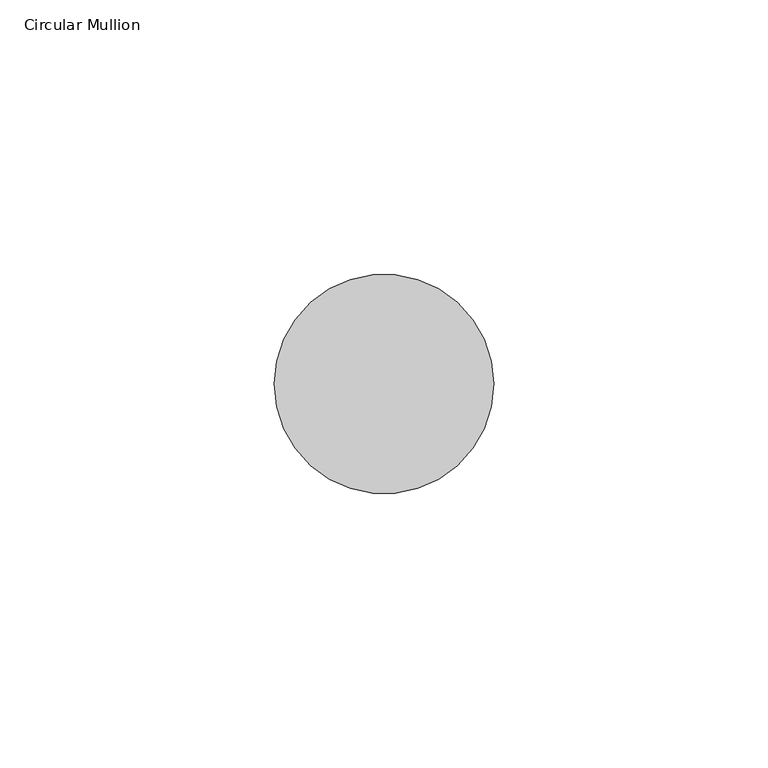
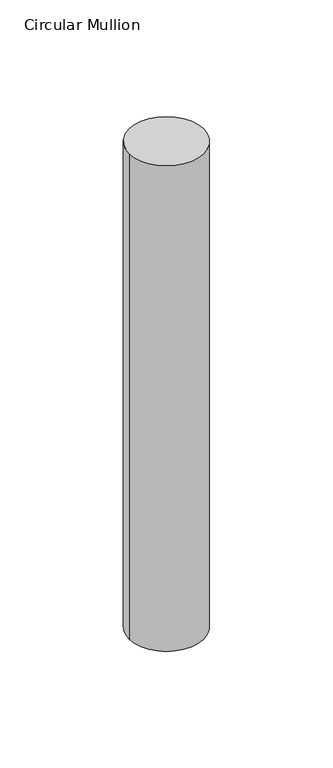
"""IFC4 building model written with IfcOpenShell, lengths in millimetres: member geometry, Circular Mullion : GRADIL 40mm."""

from ifc_helpers import new_model, si_unit, point, frame, origin, origin_2d, place, context, project, spatial, circle_curve, trimmed, segment, composite_curve, outline, extrude, source, transform, mapped, element, save


def circular_mullion_5e6bc60d(model_context):
    return source(origin(), model_context, "Body", "SweptSolid", [
        extrude(outline(composite_curve([segment(trimmed(circle_curve(origin_2d(), 20.0), [point((20.0, 0.0))], [point((-20.0, 0.0))], False, "CARTESIAN"), True, "CONTINUOUS"), segment(trimmed(circle_curve(origin_2d(), 20.0), [point((-20.0, 0.0))], [point((20.0, 0.0))], False, "CARTESIAN"), True, "CONTINUOUS")], self_intersect=False)), frame((0.0, 0.0, -275.5650592), z_axis=(0.0, 0.0, 1.0), x_axis=(1.0, 0.0, 0.0)), (0.0, 0.0, 1.0), 275.5650592),
    ])


if __name__ == "__main__":
    model = new_model("IFC4")
    model_context = context("Model", 3, world=origin())
    ifc_project = project(units=[si_unit("LENGTHUNIT", "METRE", prefix="MILLI")], contexts=[model_context])
    site = spatial("IfcSite", under=ifc_project)
    building = spatial("IfcBuilding", under=site)
    placement = place(None, origin())
    circular_mullion_shape = circular_mullion_5e6bc60d(model_context)
    element("IfcMember", 1, ObjectType="Circular Mullion : GRADIL 40mm", at=placement, inside=building, context=model_context, shape_type="MappedRepresentation", body=[
        mapped(circular_mullion_shape, transform((0.0, 0.0, 0.0), x_axis=(1.0, 0.0, 0.0), y_axis=(0.0, 1.0, 0.0), z_axis=(0.0, 0.0, 1.0))),
    ])
    save(model, "model.ifc")
